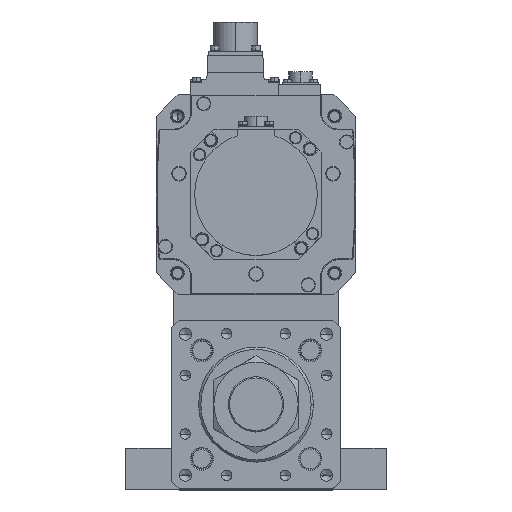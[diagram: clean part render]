
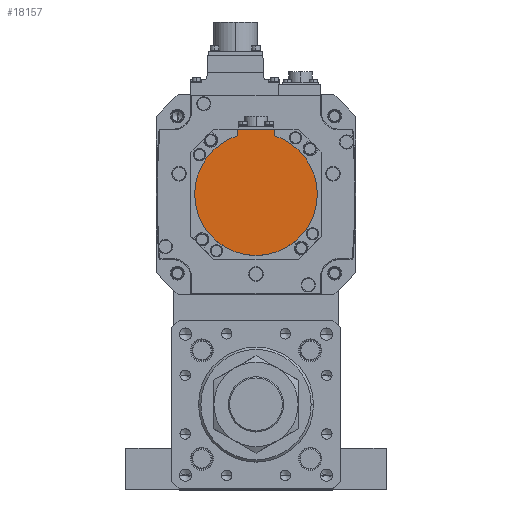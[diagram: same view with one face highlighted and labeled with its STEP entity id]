
A CAD part, top view. The second image highlights one B-rep face of the part: STEP entity #18157.
In plain terms, the highlighted planar face has unit normal (0, 0, 1) as drawn and (0, 0, -1) by its records, which use the part's own axes.
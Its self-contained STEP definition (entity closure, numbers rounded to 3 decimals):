
#49 = CIRCLE ( 'NONE', #3079, 40. ) ;
#2101 = VERTEX_POINT ( 'NONE', #36839 ) ;
#2846 = CARTESIAN_POINT ( 'NONE',  ( -12., -38.158, -167. ) ) ;
#2861 = DIRECTION ( 'NONE',  ( 0., 0., 1. ) ) ;
#3079 = AXIS2_PLACEMENT_3D ( 'NONE', #35752, #9532, #24481 ) ;
#3191 = DIRECTION ( 'NONE',  ( 1., 0., 0. ) ) ;
#3922 = CARTESIAN_POINT ( 'NONE',  ( 12., -38.158, -167. ) ) ;
#4163 = ORIENTED_EDGE ( 'NONE', *, *, #10943, .F. ) ;
#7871 = DIRECTION ( 'NONE',  ( -1., 0., 0. ) ) ;
#9008 = CARTESIAN_POINT ( 'NONE',  ( -40., 0., -167. ) ) ;
#9532 = DIRECTION ( 'NONE',  ( 0., 0., 1. ) ) ;
#9779 = ORIENTED_EDGE ( 'NONE', *, *, #22524, .T. ) ;
#9917 = VERTEX_POINT ( 'NONE', #11206 ) ;
#10320 = CARTESIAN_POINT ( 'NONE',  ( 0., -42.5, -167. ) ) ;
#10943 = EDGE_CURVE ( 'NONE', #9917, #35528, #14233, .T. ) ;
#11014 = VERTEX_POINT ( 'NONE', #3922 ) ;
#11206 = CARTESIAN_POINT ( 'NONE',  ( 40., 0., -167. ) ) ;
#12794 = FACE_OUTER_BOUND ( 'NONE', #12840, .T. ) ;
#12840 = EDGE_LOOP ( 'NONE', ( #29320, #18282, #4163, #22169, #14651, #9779 ) ) ;
#13951 = AXIS2_PLACEMENT_3D ( 'NONE', #20312, #2861, #26167 ) ;
#14233 = CIRCLE ( 'NONE', #37252, 40. ) ;
#14651 = ORIENTED_EDGE ( 'NONE', *, *, #26817, .F. ) ;
#15508 = CARTESIAN_POINT ( 'NONE',  ( 0., 0., -167. ) ) ;
#16397 = VECTOR ( 'NONE', #36045, 1000. ) ;
#17436 = AXIS2_PLACEMENT_3D ( 'NONE', #37775, #23190, #3191 ) ;
#18157 = ADVANCED_FACE ( 'NONE', ( #12794 ), #20393, .F. ) ;
#18282 = ORIENTED_EDGE ( 'NONE', *, *, #24076, .F. ) ;
#18814 = VECTOR ( 'NONE', #25564, 1000. ) ;
#20093 = LINE ( 'NONE', #10320, #31078 ) ;
#20312 = CARTESIAN_POINT ( 'NONE',  ( 0., 0., -167. ) ) ;
#20393 = PLANE ( 'NONE',  #17436 ) ;
#20898 = CIRCLE ( 'NONE', #13951, 40. ) ;
#21175 = CARTESIAN_POINT ( 'NONE',  ( -12., -42.5, -167. ) ) ;
#21693 = CARTESIAN_POINT ( 'NONE',  ( -12., -40.329, -167. ) ) ;
#22169 = ORIENTED_EDGE ( 'NONE', *, *, #27536, .F. ) ;
#22524 = EDGE_CURVE ( 'NONE', #2101, #35713, #20093, .T. ) ;
#23190 = DIRECTION ( 'NONE',  ( 0., 0., 1. ) ) ;
#24076 = EDGE_CURVE ( 'NONE', #35528, #33857, #20898, .T. ) ;
#24481 = DIRECTION ( 'NONE',  ( 1., 0., 0. ) ) ;
#25564 = DIRECTION ( 'NONE',  ( 0., 1., 0. ) ) ;
#26167 = DIRECTION ( 'NONE',  ( 1., 0., 0. ) ) ;
#26541 = LINE ( 'NONE', #28386, #18814 ) ;
#26817 = EDGE_CURVE ( 'NONE', #2101, #11014, #26541, .T. ) ;
#27536 = EDGE_CURVE ( 'NONE', #11014, #9917, #49, .T. ) ;
#28386 = CARTESIAN_POINT ( 'NONE',  ( 12., -1.249, -167. ) ) ;
#28462 = EDGE_CURVE ( 'NONE', #35713, #33857, #33767, .T. ) ;
#29320 = ORIENTED_EDGE ( 'NONE', *, *, #28462, .T. ) ;
#30065 = DIRECTION ( 'NONE',  ( 1., 0., 0. ) ) ;
#30319 = DIRECTION ( 'NONE',  ( 0., 0., 1. ) ) ;
#31078 = VECTOR ( 'NONE', #7871, 1000. ) ;
#33767 = LINE ( 'NONE', #21693, #16397 ) ;
#33857 = VERTEX_POINT ( 'NONE', #2846 ) ;
#35528 = VERTEX_POINT ( 'NONE', #9008 ) ;
#35713 = VERTEX_POINT ( 'NONE', #21175 ) ;
#35752 = CARTESIAN_POINT ( 'NONE',  ( 0., 0., -167. ) ) ;
#36045 = DIRECTION ( 'NONE',  ( 0., 1., 0. ) ) ;
#36839 = CARTESIAN_POINT ( 'NONE',  ( 12., -42.5, -167. ) ) ;
#37252 = AXIS2_PLACEMENT_3D ( 'NONE', #15508, #30319, #30065 ) ;
#37775 = CARTESIAN_POINT ( 'NONE',  ( 0., -1.249, -167. ) ) ;
